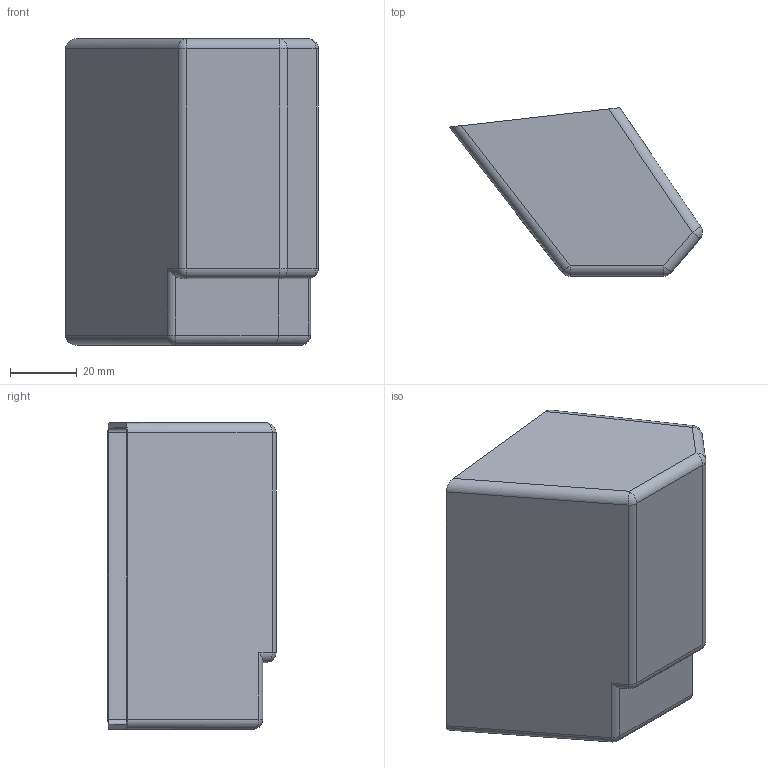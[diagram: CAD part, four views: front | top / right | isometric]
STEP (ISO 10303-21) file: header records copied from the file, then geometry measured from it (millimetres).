
FILE_DESCRIPTION(/* description */ (''),/* implementation_level */ '2;1');
FILE_NAME(/* name */ 'C:\Users\josem\Desktop\ThingZafiraAshtray\OpelZafiraAshtray.stp',/* time_stamp */ '2018-11-14T20:10:25+01:00',/* author */ ('josem'),/* organization */ (''),/* preprocessor_version */ 'ST-DEVELOPER v17.2',/* originating_system */ 'Autodesk Inventor 2019',/* authorisation */ '');
FILE_SCHEMA (('AUTOMOTIVE_DESIGN { 1 0 10303 214 3 1 1 }'));
Length unit declared in the file: millimetre
Products named in the file (1): OpelZafiraAshtray
Bounding box: 75.93 x 50.5 x 92 mm (x, y, z)
Volume: 25970.1 mm3; surface area: 35093.7 mm2
Topology: 1 solids, 1 shells, 78 faces, 168 edges, 91 vertices
Faces by surface type: cylinder 37, plane 19, sphere 16, bspline 5, torus 1
Entity records: 2178 total; most frequent: CARTESIAN_POINT 430, DIRECTION 395, ORIENTED_EDGE 332, EDGE_CURVE 166, AXIS2_PLACEMENT_3D 155, VERTEX_POINT 91, LINE 85, VECTOR 85
